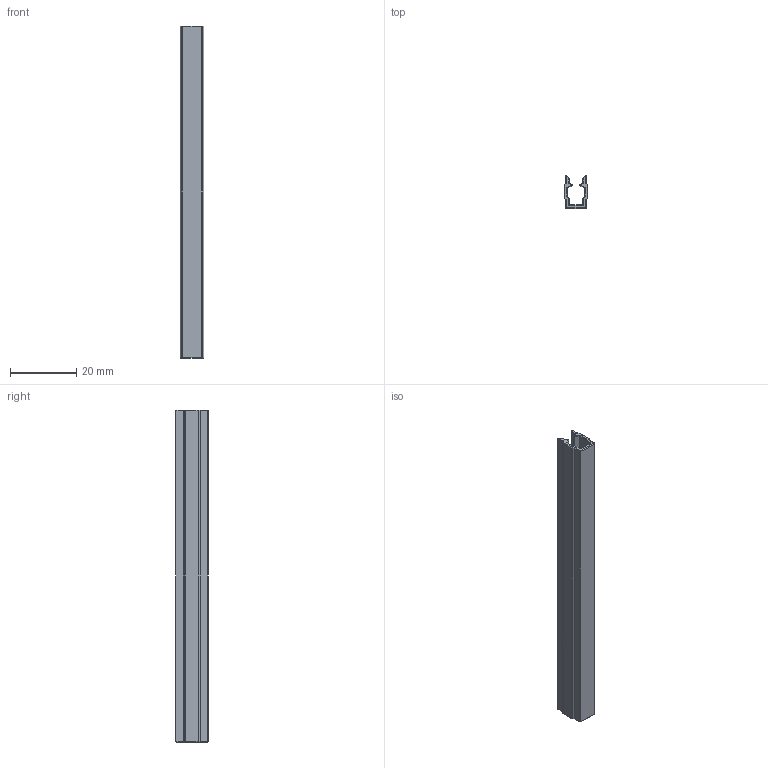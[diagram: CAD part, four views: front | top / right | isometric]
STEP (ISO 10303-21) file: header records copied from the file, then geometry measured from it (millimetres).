
FILE_DESCRIPTION (( 'STEP AP214' ), '1' );
FILE_NAME ('4048.STEP', '2015-04-29T11:48:50', ( '' ), ( '' ), 'SwSTEP 2.0', 'SolidWorks 2014', '' );
FILE_SCHEMA (( 'AUTOMOTIVE_DESIGN' ));
Length unit declared in the file: millimetre
Products named in the file (1): 4048
Bounding box: 7.2 x 9.86 x 100 mm (x, y, z)
Volume: 2609 mm3; surface area: 5256.5 mm2
Topology: 1 solids, 1 shells, 159 faces, 367 edges, 202 vertices
Faces by surface type: cylinder 79, torus 44, plane 28, bspline 8
Entity records: 4593 total; most frequent: CARTESIAN_POINT 977, DIRECTION 833, ORIENTED_EDGE 718, EDGE_CURVE 359, AXIS2_PLACEMENT_3D 338, VERTEX_POINT 202, CIRCLE 186, ADVANCED_FACE 159
